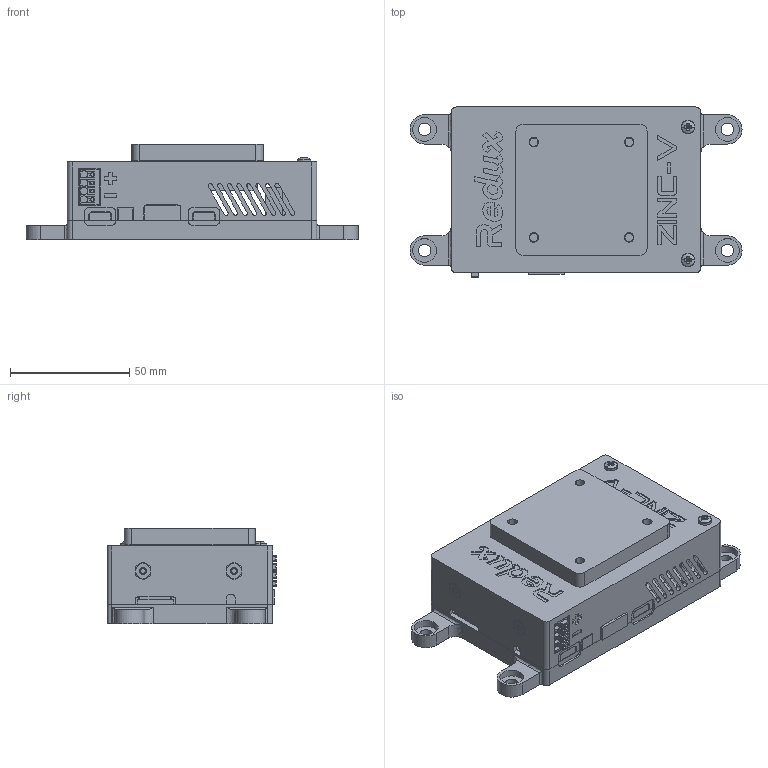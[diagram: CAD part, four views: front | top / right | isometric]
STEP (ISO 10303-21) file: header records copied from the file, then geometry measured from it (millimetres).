
FILE_DESCRIPTION(/* description */ ('STEP AP242','CAx-IF Rec.Pracs.---Representation and Presentation of Product Manufacturing Information (PMI)---4.0---2014-10-13','CAx-IF Rec.Pracs.---3D Tessellated Geometry---0.4---2014-09-14','2;1'),/* implementation_level */ '2;1');
FILE_NAME(/* name */ 'ZINCVOPICASE',/* time_stamp */ '2024-09-15T02:53:27Z');
FILE_SCHEMA (('AP242_MANAGED_MODEL_BASED_3D_ENGINEERING_MIM_LF { 1 0 10303 442 1 1 4 }'));
Products named in the file (12): ZincV OPi5 Case; CFM-5010 FAN HOUSING_10; Socket head cap screw #4-40 x 0.188; Orange Pi 5; Hex machine screw nut #4-40; Pan head machine screw #4-40 x 0.3125; fan wires; Pan head machine screw #4-40 x 1.25; Zinc-V PCBA; ZincOpi5-Base; 50mmfanfilter; ZincOpi5-Lid
Assembly tree (19 placements, depth 2):
  ZincV OPi5 Case
    CFM-5010 FAN HOUSING_10
    Socket head cap screw #4-40 x 0.188  x2
    Orange Pi 5
    Hex machine screw nut #4-40  x6
    Pan head machine screw #4-40 x 0.3125  x2
    fan wires
    Pan head machine screw #4-40 x 1.25  x2
    Zinc-V PCBA
    ZincOpi5-Base
    50mmfanfilter
    ZincOpi5-Lid
Bounding box: 139.3 x 71.31 x 40.2 mm (x, y, z)
Volume: 107580.4 mm3; surface area: 93669.7 mm2
Topology: 19 solids, 21 shells, 3029 faces, 8711 edges, 5666 vertices
Faces by surface type: bspline 3029
Entity records: 98085 total; most frequent: CARTESIAN_POINT 30618, ORIENTED_EDGE 16092, DIRECTION 9691, EDGE_CURVE 8046, LINE 5669, VECTOR 5669, VERTEX_POINT 5317, EDGE_LOOP 3167
